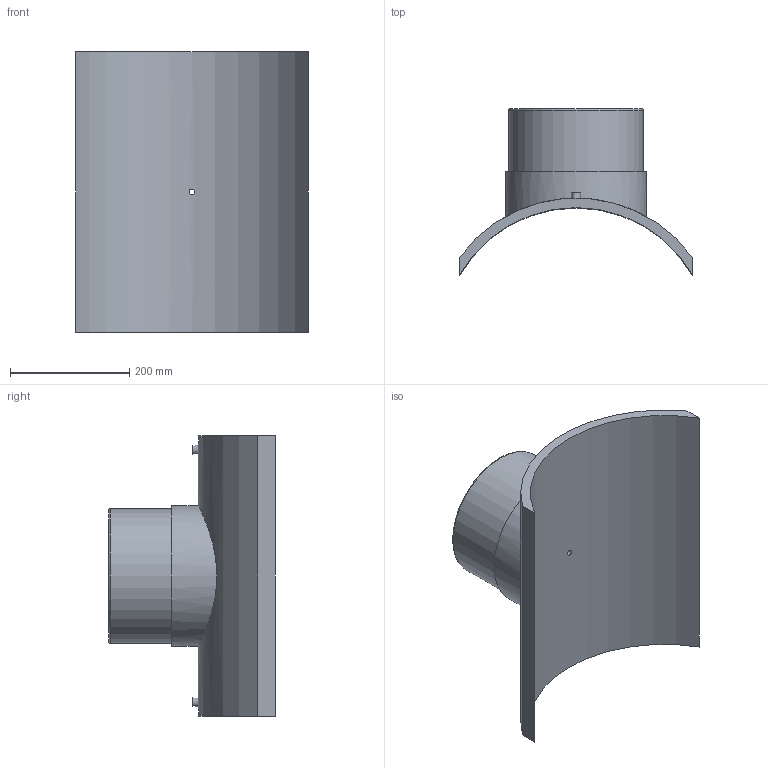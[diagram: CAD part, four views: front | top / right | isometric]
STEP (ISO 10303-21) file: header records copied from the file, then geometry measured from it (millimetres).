
FILE_DESCRIPTION(/* description */ ('PLASSON BRANCH SADDLE 450x225'),/* implementation_level */ '2;1');
FILE_NAME(/* name */ 'C:\Dropbox\KIMPROJECTS-Inventor 2019\99-16-3568-Processing\ElectroFusion Fittings\495803\stp\495803450225T.stp',/* time_stamp */ '2024-04-04T11:48:39+02:00',/* author */ ('KIM'),/* organization */ (''),/* preprocessor_version */ 'ST-DEVELOPER v17.2',/* originating_system */ 'Autodesk Inventor 2019',/* authorisation */ '');
FILE_SCHEMA (('AUTOMOTIVE_DESIGN { 1 0 10303 214 3 1 1 }'));
Length unit declared in the file: millimetre
Products named in the file (1): 495803450225T
Bounding box: 390 x 278.75 x 470 mm (x, y, z)
Volume: 6035156.4 mm3; surface area: 692463.4 mm2
Topology: 1 solids, 1 shells, 29 faces, 60 edges, 43 vertices
Faces by surface type: plane 13, cylinder 12, torus 2, cone 2
Full cylindrical faces by diameter (mm): 4 x2, 9.6 x1, 10 x2, 16 x1, 180 x1, 225 x1, 236.25 x1
Entity records: 1086 total; most frequent: CARTESIAN_POINT 400, DIRECTION 139, ORIENTED_EDGE 120, EDGE_CURVE 60, AXIS2_PLACEMENT_3D 60, VERTEX_POINT 43, EDGE_LOOP 41, CIRCLE 30
